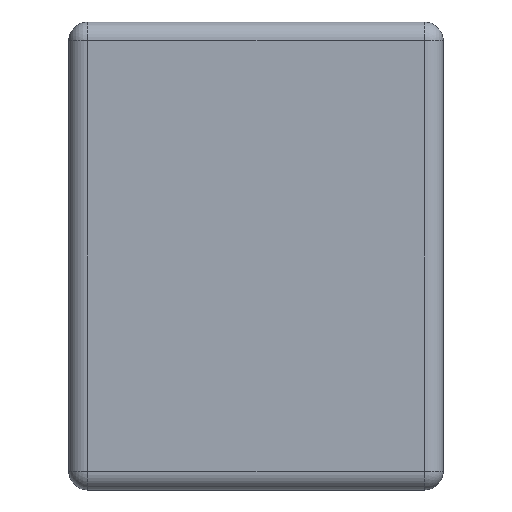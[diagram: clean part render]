
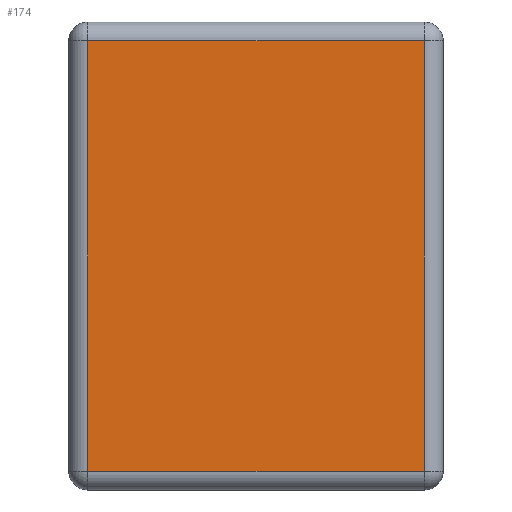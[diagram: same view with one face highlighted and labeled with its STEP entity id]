
A CAD part, left-side view. The second image highlights one B-rep face of the part: STEP entity #174.
In plain terms, the highlighted planar face has unit normal (-1, 0, 0).
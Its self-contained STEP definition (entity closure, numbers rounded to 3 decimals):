
#14 = CARTESIAN_POINT ( 'NONE',  ( -1.6, -0.9, -1.15 ) ) ;
#174 = ADVANCED_FACE ( 'NONE', ( #928 ), #332, .F. ) ;
#179 = LINE ( 'NONE', #1071, #706 ) ;
#186 = VECTOR ( 'NONE', #1082, 1000. ) ;
#192 = ORIENTED_EDGE ( 'NONE', *, *, #243, .T. ) ;
#226 = EDGE_CURVE ( 'NONE', #1543, #1029, #1493, .T. ) ;
#243 = EDGE_CURVE ( 'NONE', #810, #285, #1093, .T. ) ;
#270 = EDGE_LOOP ( 'NONE', ( #710, #192, #1153, #1207 ) ) ;
#285 = VERTEX_POINT ( 'NONE', #14 ) ;
#332 = PLANE ( 'NONE',  #1218 ) ;
#386 = CARTESIAN_POINT ( 'NONE',  ( -1.6, 0.9, -1.15 ) ) ;
#419 = VECTOR ( 'NONE', #600, 1000. ) ;
#446 = CARTESIAN_POINT ( 'NONE',  ( -1.6, 1., -1.25 ) ) ;
#559 = CARTESIAN_POINT ( 'NONE',  ( -1.6, -0.9, 1.15 ) ) ;
#600 = DIRECTION ( 'NONE',  ( 0., 1., 0. ) ) ;
#678 = EDGE_CURVE ( 'NONE', #1029, #810, #179, .T. ) ;
#706 = VECTOR ( 'NONE', #845, 1000. ) ;
#710 = ORIENTED_EDGE ( 'NONE', *, *, #678, .T. ) ;
#742 = VECTOR ( 'NONE', #883, 1000. ) ;
#779 = EDGE_CURVE ( 'NONE', #285, #1543, #1374, .T. ) ;
#798 = CARTESIAN_POINT ( 'NONE',  ( -1.6, 0.9, 1.15 ) ) ;
#810 = VERTEX_POINT ( 'NONE', #386 ) ;
#845 = DIRECTION ( 'NONE',  ( 0., 0., -1. ) ) ;
#883 = DIRECTION ( 'NONE',  ( 0., 0., 1. ) ) ;
#928 = FACE_OUTER_BOUND ( 'NONE', #270, .T. ) ;
#949 = CARTESIAN_POINT ( 'NONE',  ( -1.6, 1., -1.15 ) ) ;
#1029 = VERTEX_POINT ( 'NONE', #798 ) ;
#1071 = CARTESIAN_POINT ( 'NONE',  ( -1.6, 0.9, -1.25 ) ) ;
#1082 = DIRECTION ( 'NONE',  ( 0., -1., 0. ) ) ;
#1093 = LINE ( 'NONE', #949, #186 ) ;
#1153 = ORIENTED_EDGE ( 'NONE', *, *, #779, .T. ) ;
#1207 = ORIENTED_EDGE ( 'NONE', *, *, #226, .T. ) ;
#1218 = AXIS2_PLACEMENT_3D ( 'NONE', #446, #1411, #1403 ) ;
#1310 = CARTESIAN_POINT ( 'NONE',  ( -1.6, -0.9, -1.25 ) ) ;
#1374 = LINE ( 'NONE', #1310, #742 ) ;
#1403 = DIRECTION ( 'NONE',  ( 0., 0., -1. ) ) ;
#1411 = DIRECTION ( 'NONE',  ( 1., 0., 0. ) ) ;
#1434 = CARTESIAN_POINT ( 'NONE',  ( -1.6, 1., 1.15 ) ) ;
#1493 = LINE ( 'NONE', #1434, #419 ) ;
#1543 = VERTEX_POINT ( 'NONE', #559 ) ;
